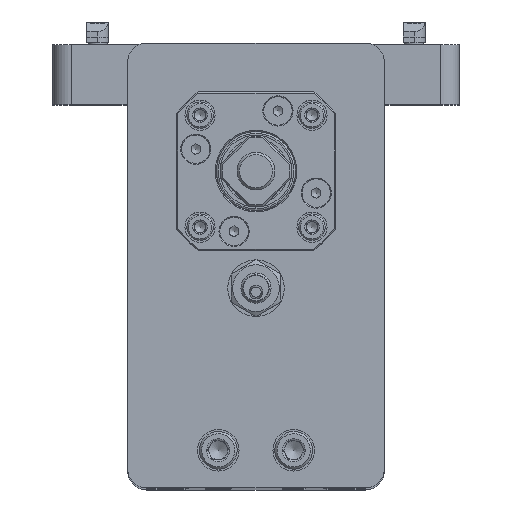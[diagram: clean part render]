
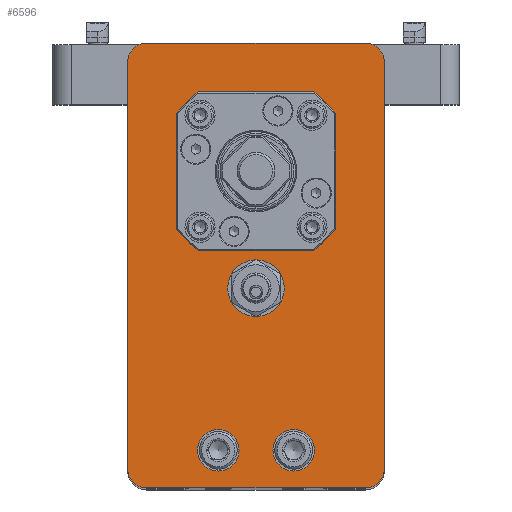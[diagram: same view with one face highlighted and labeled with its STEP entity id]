
A CAD part, top view. The second image highlights one B-rep face of the part: STEP entity #6596.
In plain terms, the highlighted planar face has unit normal (0, 0, 1).
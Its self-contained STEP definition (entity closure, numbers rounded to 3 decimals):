
#6596=ADVANCED_FACE('',(#26375,#26377,#26379,#26381,#26383),#26385,.F.);
#26375=FACE_BOUND('',#26376,.T.);
#26376=EDGE_LOOP('',(#44157,#44158,#44159,#44160,#44161,#44162,#44163,#44164));
#26377=FACE_BOUND('',#26378,.T.);
#26378=EDGE_LOOP('',(#44165,#44166,#44167,#44168,#44169,#44170,#44171,#44172));
#26379=FACE_BOUND('',#26380,.T.);
#26380=EDGE_LOOP('',(#44173));
#26381=FACE_BOUND('',#26382,.T.);
#26382=EDGE_LOOP('',(#44174));
#26383=FACE_BOUND('',#26384,.T.);
#26384=EDGE_LOOP('',(#44175));
#26385=PLANE('',#26386);
#26386=AXIS2_PLACEMENT_3D('',#26387,#26388,#26389);
#26387=CARTESIAN_POINT('',(0.,49.,153.));
#26388=DIRECTION('',(0.,0.,-1.));
#26389=DIRECTION('',(-1.,0.,0.));
#44157=ORIENTED_EDGE('',*,*,#56035,.F.);
#44158=ORIENTED_EDGE('',*,*,#56036,.F.);
#44159=ORIENTED_EDGE('',*,*,#56037,.F.);
#44160=ORIENTED_EDGE('',*,*,#56038,.F.);
#44161=ORIENTED_EDGE('',*,*,#56039,.F.);
#44162=ORIENTED_EDGE('',*,*,#55945,.F.);
#44163=ORIENTED_EDGE('',*,*,#56034,.F.);
#44164=ORIENTED_EDGE('',*,*,#56040,.F.);
#44165=ORIENTED_EDGE('',*,*,#56041,.F.);
#44166=ORIENTED_EDGE('',*,*,#56042,.F.);
#44167=ORIENTED_EDGE('',*,*,#56043,.F.);
#44168=ORIENTED_EDGE('',*,*,#56044,.F.);
#44169=ORIENTED_EDGE('',*,*,#56045,.F.);
#44170=ORIENTED_EDGE('',*,*,#56046,.F.);
#44171=ORIENTED_EDGE('',*,*,#56047,.F.);
#44172=ORIENTED_EDGE('',*,*,#56048,.F.);
#44173=ORIENTED_EDGE('',*,*,#56049,.T.);
#44174=ORIENTED_EDGE('',*,*,#56050,.T.);
#44175=ORIENTED_EDGE('',*,*,#56051,.F.);
#55945=EDGE_CURVE('',#63074,#63076,#63077,.T.);
#56034=EDGE_CURVE('',#63222,#63074,#63224,.F.);
#56035=EDGE_CURVE('',#63225,#63226,#63227,.F.);
#56036=EDGE_CURVE('',#63228,#63225,#63229,.T.);
#56037=EDGE_CURVE('',#63230,#63228,#63231,.F.);
#56038=EDGE_CURVE('',#63232,#63230,#63233,.T.);
#56039=EDGE_CURVE('',#63076,#63232,#63234,.F.);
#56040=EDGE_CURVE('',#63226,#63222,#63235,.T.);
#56041=EDGE_CURVE('',#63236,#63237,#63238,.F.);
#56042=EDGE_CURVE('',#63239,#63236,#63240,.T.);
#56043=EDGE_CURVE('',#63241,#63239,#63242,.F.);
#56044=EDGE_CURVE('',#63243,#63241,#63244,.T.);
#56045=EDGE_CURVE('',#63245,#63243,#63246,.F.);
#56046=EDGE_CURVE('',#63247,#63245,#63248,.T.);
#56047=EDGE_CURVE('',#63249,#63247,#63250,.F.);
#56048=EDGE_CURVE('',#63237,#63249,#63251,.T.);
#56049=EDGE_CURVE('',#63252,#63252,#63253,.F.);
#56050=EDGE_CURVE('',#63254,#63254,#63255,.F.);
#56051=EDGE_CURVE('',#63256,#63256,#63257,.F.);
#63074=VERTEX_POINT('',#81105);
#63076=VERTEX_POINT('',#81109);
#63077=LINE('',#81110,#81111);
#63222=VERTEX_POINT('',#81462);
#63224=CIRCLE('',#81466,5.);
#63225=VERTEX_POINT('',#81470);
#63226=VERTEX_POINT('',#81471);
#63227=CIRCLE('',#81472,5.);
#63228=VERTEX_POINT('',#81476);
#63229=LINE('',#81477,#81478);
#63230=VERTEX_POINT('',#81480);
#63231=CIRCLE('',#81481,5.);
#63232=VERTEX_POINT('',#81485);
#63233=LINE('',#81486,#81487);
#63234=CIRCLE('',#81489,5.);
#63235=LINE('',#81493,#81494);
#63236=VERTEX_POINT('',#81496);
#63237=VERTEX_POINT('',#81497);
#63238=LINE('',#81498,#81499);
#63239=VERTEX_POINT('',#81501);
#63240=CIRCLE('',#81502,25.5);
#63241=VERTEX_POINT('',#81506);
#63242=LINE('',#81507,#81508);
#63243=VERTEX_POINT('',#81510);
#63244=CIRCLE('',#81511,25.5);
#63245=VERTEX_POINT('',#81515);
#63246=LINE('',#81516,#81517);
#63247=VERTEX_POINT('',#81519);
#63248=CIRCLE('',#81520,25.5);
#63249=VERTEX_POINT('',#81524);
#63250=LINE('',#81525,#81526);
#63251=CIRCLE('',#81528,25.5);
#63252=VERTEX_POINT('',#81532);
#63253=CIRCLE('',#81533,5.5);
#63254=VERTEX_POINT('',#81537);
#63255=CIRCLE('',#81538,5.5);
#63256=VERTEX_POINT('',#81542);
#63257=CIRCLE('',#81543,7.5);
#81105=CARTESIAN_POINT('',(29.,-10.,153.));
#81109=CARTESIAN_POINT('',(-29.,-10.,153.));
#81110=CARTESIAN_POINT('',(29.,-10.,153.));
#81111=VECTOR('',#81112,1.);
#81112=DIRECTION('',(-1.,0.,0.));
#81462=CARTESIAN_POINT('',(34.,-5.,153.));
#81466=AXIS2_PLACEMENT_3D('',#81467,#81468,#81469);
#81467=CARTESIAN_POINT('',(29.,-5.,153.));
#81468=DIRECTION('',(0.,0.,1.));
#81469=DIRECTION('',(0.,-1.,0.));
#81470=CARTESIAN_POINT('',(29.,108.,153.));
#81471=CARTESIAN_POINT('',(34.,103.,153.));
#81472=AXIS2_PLACEMENT_3D('',#81473,#81474,#81475);
#81473=CARTESIAN_POINT('',(29.,103.,153.));
#81474=DIRECTION('',(0.,0.,1.));
#81475=DIRECTION('',(1.,0.,0.));
#81476=CARTESIAN_POINT('',(-29.,108.,153.));
#81477=CARTESIAN_POINT('',(-29.,108.,153.));
#81478=VECTOR('',#81479,1.);
#81479=DIRECTION('',(1.,0.,0.));
#81480=CARTESIAN_POINT('',(-34.,103.,153.));
#81481=AXIS2_PLACEMENT_3D('',#81482,#81483,#81484);
#81482=CARTESIAN_POINT('',(-29.,103.,153.));
#81483=DIRECTION('',(0.,0.,1.));
#81484=DIRECTION('',(0.,1.,0.));
#81485=CARTESIAN_POINT('',(-34.,-5.,153.));
#81486=CARTESIAN_POINT('',(-34.,-5.,153.));
#81487=VECTOR('',#81488,1.);
#81488=DIRECTION('',(0.,1.,0.));
#81489=AXIS2_PLACEMENT_3D('',#81490,#81491,#81492);
#81490=CARTESIAN_POINT('',(-29.,-5.,153.));
#81491=DIRECTION('',(0.,0.,1.));
#81492=DIRECTION('',(-1.,0.,0.));
#81493=CARTESIAN_POINT('',(34.,103.,153.));
#81494=VECTOR('',#81495,1.);
#81495=DIRECTION('',(0.,-1.,0.));
#81496=CARTESIAN_POINT('',(-15.166,53.5,153.));
#81497=CARTESIAN_POINT('',(15.166,53.5,153.));
#81498=CARTESIAN_POINT('',(15.166,53.5,153.));
#81499=VECTOR('',#81500,1.);
#81500=DIRECTION('',(-1.,0.,0.));
#81501=CARTESIAN_POINT('',(-20.5,58.834,153.));
#81502=AXIS2_PLACEMENT_3D('',#81503,#81504,#81505);
#81503=CARTESIAN_POINT('',(0.,74.,153.));
#81504=DIRECTION('',(0.,0.,1.));
#81505=DIRECTION('',(-0.804,-0.595,0.));
#81506=CARTESIAN_POINT('',(-20.5,89.166,153.));
#81507=CARTESIAN_POINT('',(-20.5,58.834,153.));
#81508=VECTOR('',#81509,1.);
#81509=DIRECTION('',(0.,1.,0.));
#81510=CARTESIAN_POINT('',(-15.166,94.5,153.));
#81511=AXIS2_PLACEMENT_3D('',#81512,#81513,#81514);
#81512=CARTESIAN_POINT('',(0.,74.,153.));
#81513=DIRECTION('',(0.,0.,1.));
#81514=DIRECTION('',(-0.595,0.804,0.));
#81515=CARTESIAN_POINT('',(15.166,94.5,153.));
#81516=CARTESIAN_POINT('',(-15.166,94.5,153.));
#81517=VECTOR('',#81518,1.);
#81518=DIRECTION('',(1.,0.,0.));
#81519=CARTESIAN_POINT('',(20.5,89.166,153.));
#81520=AXIS2_PLACEMENT_3D('',#81521,#81522,#81523);
#81521=CARTESIAN_POINT('',(0.,74.,153.));
#81522=DIRECTION('',(0.,0.,1.));
#81523=DIRECTION('',(0.804,0.595,0.));
#81524=CARTESIAN_POINT('',(20.5,58.834,153.));
#81525=CARTESIAN_POINT('',(20.5,89.166,153.));
#81526=VECTOR('',#81527,1.);
#81527=DIRECTION('',(0.,-1.,0.));
#81528=AXIS2_PLACEMENT_3D('',#81529,#81530,#81531);
#81529=CARTESIAN_POINT('',(0.,74.,153.));
#81530=DIRECTION('',(0.,0.,1.));
#81531=DIRECTION('',(0.595,-0.804,0.));
#81532=CARTESIAN_POINT('',(-10.,5.5,153.));
#81533=AXIS2_PLACEMENT_3D('',#81534,#81535,#81536);
#81534=CARTESIAN_POINT('',(-10.,0.,153.));
#81535=DIRECTION('',(0.,0.,1.));
#81536=DIRECTION('',(0.,1.,0.));
#81537=CARTESIAN_POINT('',(10.,5.5,153.));
#81538=AXIS2_PLACEMENT_3D('',#81539,#81540,#81541);
#81539=CARTESIAN_POINT('',(10.,0.,153.));
#81540=DIRECTION('',(0.,0.,1.));
#81541=DIRECTION('',(0.,1.,0.));
#81542=CARTESIAN_POINT('',(7.5,43.,153.));
#81543=AXIS2_PLACEMENT_3D('',#81544,#81545,#81546);
#81544=CARTESIAN_POINT('',(0.,43.,153.));
#81545=DIRECTION('',(0.,0.,-1.));
#81546=DIRECTION('',(1.,0.,0.));
